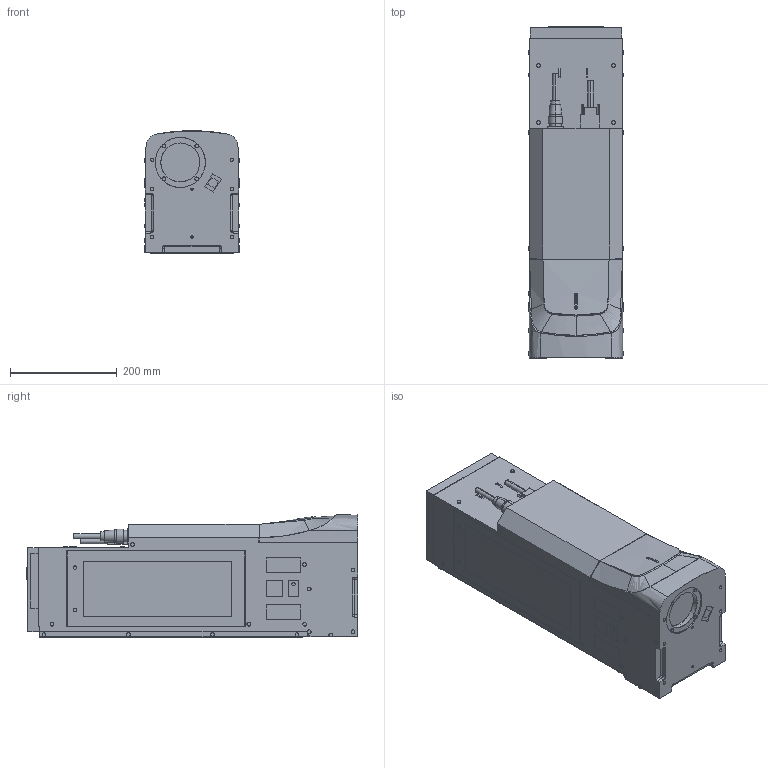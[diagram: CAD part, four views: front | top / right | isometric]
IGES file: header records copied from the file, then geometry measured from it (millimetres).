
Start section: SolidWorks IGES file using analytic representation for surfaces
Global section: file name: C:\catalog\lp-rh300th_igs.IGS; native system: SolidWorks 2022; preprocessor: SolidWorks 2022; author: E219273; date: 230728.151639; units: millimetre
Bounding box: 178.8 x 623 x 230 mm (x, y, z)
Surface area: 556238.9 mm2 (no closed solid volume)
Topology: 0 solids, 0 shells, 529 faces, 7235 edges, 7233 vertices
Faces by surface type: bspline 343, revolution 186
